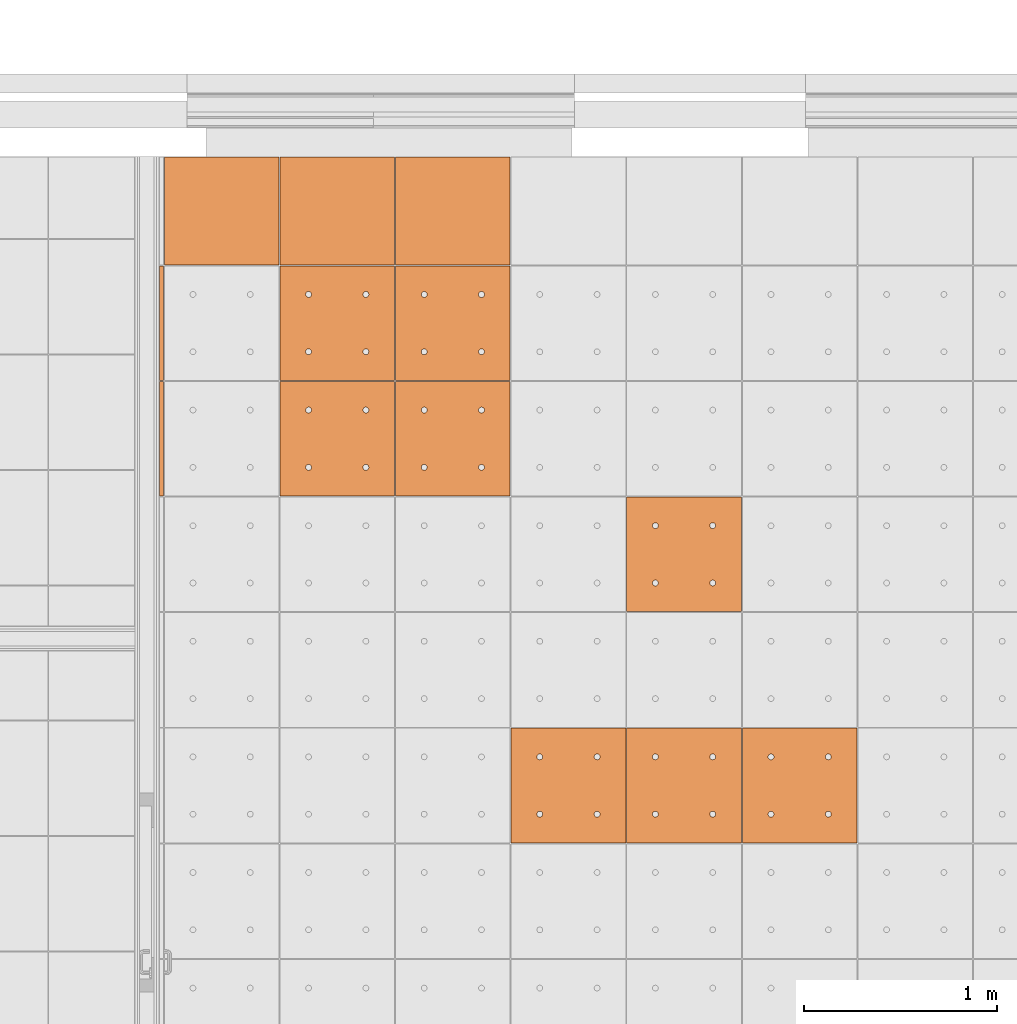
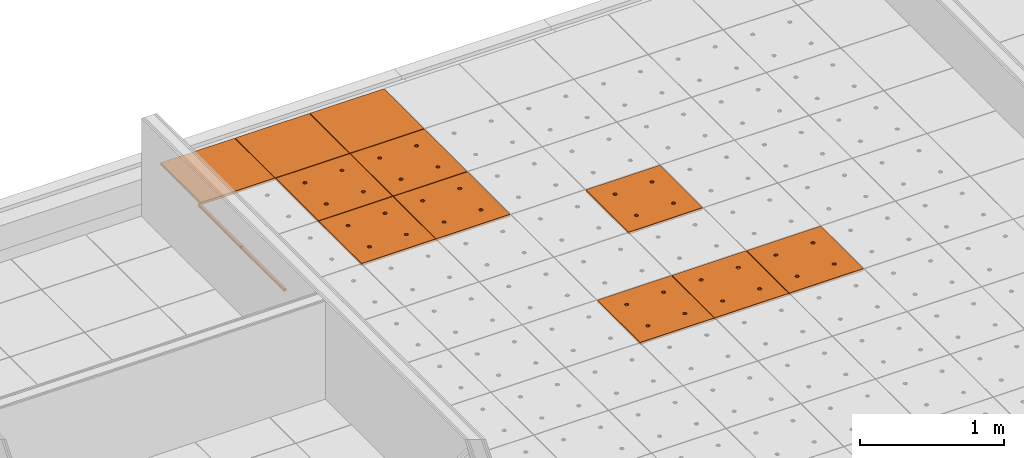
# One storey, part 301 of 338: 13 proxies, 1 element without a shape of its own.
"""IFC2X3 building model written with IfcOpenShell, lengths in millimetres."""

from ifc_helpers import new_model, entity, si_unit, converted_unit, derived_unit, money_unit, direction, frame, origin_with_axes, place, context, subcontext, project, spatial, faceted_brep, source, transform, mapped, material, type_object, type_shapes, element, aggregate, save


model = new_model("IFC2X3")

# Units and contexts
model_context = context("Model", 3, precision=0.01, world=origin_with_axes(), true_north=direction((0.0, 1.0)))
plan_context = context("Plan", 3, precision=0.01, world=origin_with_axes(), true_north=direction((0.0, 1.0)))
body_context = subcontext(model_context, "Body", "Model", "MODEL_VIEW")
ifc_project = project(units=[si_unit("LENGTHUNIT", "METRE", prefix="MILLI"), si_unit("AREAUNIT", "SQUARE_METRE"), si_unit("VOLUMEUNIT", "CUBIC_METRE"), converted_unit("PLANEANGLEUNIT", "DEGREE", entity("IfcPlaneAngleMeasure", 0.0174532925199), si_unit("PLANEANGLEUNIT", "RADIAN"), dimensions=[0, 0, 0, 0, 0, 0, 0]), money_unit("EUR"), converted_unit("TIMEUNIT", "Year", entity("IfcTimeMeasure", 31556926.0), si_unit("TIMEUNIT", "SECOND"), dimensions=[0, 0, 1, 0, 0, 0, 0]), si_unit("MASSUNIT", "GRAM", prefix="KILO"), si_unit("THERMODYNAMICTEMPERATUREUNIT", "DEGREE_CELSIUS"), si_unit("LUMINOUSINTENSITYUNIT", "LUMEN"), si_unit("ENERGYUNIT", "JOULE", prefix="MEGA"), derived_unit("THERMALCONDUCTANCEUNIT", [(si_unit("POWERUNIT", "WATT"), 1), (si_unit("LENGTHUNIT", "METRE"), -1), (si_unit("THERMODYNAMICTEMPERATUREUNIT", "KELVIN"), -1)]), derived_unit("SPECIFICHEATCAPACITYUNIT", [(si_unit("ENERGYUNIT", "JOULE"), 1), (si_unit("MASSUNIT", "GRAM", prefix="KILO"), -1), (si_unit("THERMODYNAMICTEMPERATUREUNIT", "KELVIN"), -1)]), derived_unit("MASSDENSITYUNIT", [(si_unit("MASSUNIT", "GRAM", prefix="KILO"), 1), (si_unit("VOLUMEUNIT", "CUBIC_METRE"), -1)])], contexts=[model_context, plan_context])

# Site, building, storey
site_placement = place(None, origin_with_axes())
site = spatial("IfcSite", under=ifc_project, at=site_placement, Name="Fortuinstraat Woensdrecht", CompositionType="ELEMENT")
building_placement = place(site_placement, origin_with_axes())
building = spatial("IfcBuilding", under=site, at=building_placement, Name="IKC Fortuna", CompositionType="ELEMENT")
storey_placement = place(building_placement, origin_with_axes())
storey = spatial("IfcBuildingStorey", under=building, at=storey_placement, Name="00 begane grond", CompositionType="ELEMENT", Elevation=0.0)

# Covering, proxies
covering_type = type_object("IfcCoveringType", Name="Curtain Wall Type", PredefinedType="CEILING")
covering_placement = place(storey_placement, frame((24394.3550152, 31482.3495284, 3210.0), z_axis=(0.0, 0.0, 1.0), x_axis=(1.0, 0.0, 0.0)))
covering = element("IfcCovering", 1, at=covering_placement, inside=storey, type_object=covering_type, Name="45_Plafondafwerking_P01", PredefinedType="CEILING")
ifc_material = material(Name="Gipsplaat")
building_element_proxy_type_1 = type_object("IfcBuildingElementProxyType", Name="Main Panel 600 x 600 x 20", PredefinedType="NOTDEFINED")
shared_shape_1 = source(origin_with_axes(), body_context, "Body", "Brep", [
    faceted_brep([(2.49999999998, 2.49999999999, -10.0), (300.0, 2.49999999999, -10.0), (300.0, 2.49999999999, 10.0), (2.49999999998, 2.49999999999, 10.0), (2.49999999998, 300.0, -10.0), (2.49999999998, 597.5, -10.0), (300.0, 597.5, -10.0), (597.5, 597.5, -10.0), (597.5, 300.0, -10.0), (597.5, 2.49999999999, -10.0), (166.25, 450.06232995, -10.0), (165.79423259, 452.64711538, -10.0), (164.896546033, 455.11348892, -10.0), (163.58421608, 457.38651108, -10.0), (161.897117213, 459.39711721, -10.0), (159.886511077, 461.08421608, -10.0), (157.613488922, 462.39654603, -10.0), (155.147115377, 463.29423259, -10.0), (152.562329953, 463.75, -10.0), (149.937670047, 463.75, -10.0), (147.352884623, 463.29423259, -10.0), (144.886511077, 462.39654603, -10.0), (142.613488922, 461.08421608, -10.0), (140.602882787, 459.39711721, -10.0), (138.91578392, 457.38651108, -10.0), (137.603453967, 455.11348892, -10.0), (136.705767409, 452.64711538, -10.0), (136.25, 450.06232995, -10.0), (136.25, 448.75, -10.0), (136.25, 447.43767005, -10.0), (136.705767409, 444.85288462, -10.0), (137.603453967, 442.38651108, -10.0), (138.91578392, 440.11348892, -10.0), (140.602882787, 438.10288279, -10.0), (142.613488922, 436.41578392, -10.0), (144.886511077, 435.10345397, -10.0), (147.352884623, 434.20576741, -10.0), (149.937670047, 433.75, -10.0), (152.562329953, 433.75, -10.0), (155.147115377, 434.20576741, -10.0), (157.613488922, 435.10345397, -10.0), (159.886511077, 436.41578392, -10.0), (161.897117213, 438.10288279, -10.0), (163.58421608, 440.11348892, -10.0), (164.896546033, 442.38651108, -10.0), (165.79423259, 444.85288462, -10.0), (166.25, 447.43767005, -10.0), (463.75, 450.06232995, -10.0), (463.29423259, 452.64711538, -10.0), (462.396546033, 455.11348892, -10.0), (461.08421608, 457.38651108, -10.0), (459.397117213, 459.39711721, -10.0), (457.386511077, 461.08421608, -10.0), (455.113488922, 462.39654603, -10.0), (452.647115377, 463.29423259, -10.0), (450.062329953, 463.75, -10.0), (447.437670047, 463.75, -10.0), (444.852884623, 463.29423259, -10.0), (442.386511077, 462.39654603, -10.0), (440.113488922, 461.08421608, -10.0), (438.102882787, 459.39711721, -10.0), (436.41578392, 457.38651108, -10.0), (435.103453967, 455.11348892, -10.0), (434.205767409, 452.64711538, -10.0), (433.75, 450.06232995, -10.0), (433.75, 448.75, -10.0), (433.75, 447.43767005, -10.0), (434.205767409, 444.85288462, -10.0), (435.103453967, 442.38651108, -10.0), (436.41578392, 440.11348892, -10.0), (438.102882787, 438.10288279, -10.0), (440.113488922, 436.41578392, -10.0), (442.386511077, 435.10345397, -10.0), (444.852884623, 434.20576741, -10.0), (447.437670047, 433.75, -10.0), (450.062329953, 433.75, -10.0), (452.647115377, 434.20576741, -10.0), (455.113488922, 435.10345397, -10.0), (457.386511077, 436.41578392, -10.0), (459.397117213, 438.10288279, -10.0), (461.08421608, 440.11348892, -10.0), (462.396546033, 442.38651108, -10.0), (463.29423259, 444.85288462, -10.0), (463.75, 447.43767005, -10.0), (463.75, 152.56232995, -10.0), (463.29423259, 155.14711538, -10.0), (462.396546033, 157.61348892, -10.0), (461.08421608, 159.88651108, -10.0), (459.397117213, 161.89711721, -10.0), (457.386511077, 163.58421608, -10.0), (455.113488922, 164.89654603, -10.0), (452.647115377, 165.79423259, -10.0), (450.062329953, 166.25, -10.0), (447.437670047, 166.25, -10.0), (444.852884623, 165.79423259, -10.0), (442.386511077, 164.89654603, -10.0), (440.113488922, 163.58421608, -10.0), (438.102882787, 161.89711721, -10.0), (436.41578392, 159.88651108, -10.0), (435.103453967, 157.61348892, -10.0), (434.205767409, 155.14711538, -10.0), (433.75, 152.56232995, -10.0), (433.75, 151.25, -10.0), (433.75, 149.93767005, -10.0), (434.205767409, 147.35288462, -10.0), (435.103453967, 144.88651108, -10.0), (436.41578392, 142.61348892, -10.0), (438.102882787, 140.60288279, -10.0), (440.113488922, 138.91578392, -10.0), (442.386511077, 137.60345397, -10.0), (444.852884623, 136.70576741, -10.0), (447.437670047, 136.25, -10.0), (450.062329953, 136.25, -10.0), (452.647115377, 136.70576741, -10.0), (455.113488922, 137.60345397, -10.0), (457.386511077, 138.91578392, -10.0), (459.397117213, 140.60288279, -10.0), (461.08421608, 142.61348892, -10.0), (462.396546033, 144.88651108, -10.0), (463.29423259, 147.35288462, -10.0), (463.75, 149.93767005, -10.0), (166.25, 152.56232995, -10.0), (165.79423259, 155.14711538, -10.0), (164.896546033, 157.61348892, -10.0), (163.58421608, 159.88651108, -10.0), (161.897117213, 161.89711721, -10.0), (159.886511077, 163.58421608, -10.0), (157.613488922, 164.89654603, -10.0), (155.147115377, 165.79423259, -10.0), (152.562329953, 166.25, -10.0), (149.937670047, 166.25, -10.0), (147.352884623, 165.79423259, -10.0), (144.886511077, 164.89654603, -10.0), (142.613488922, 163.58421608, -10.0), (140.602882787, 161.89711721, -10.0), (138.91578392, 159.88651108, -10.0), (137.603453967, 157.61348892, -10.0), (136.705767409, 155.14711538, -10.0), (136.25, 152.56232995, -10.0), (136.25, 151.25, -10.0), (136.25, 149.93767005, -10.0), (136.705767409, 147.35288462, -10.0), (137.603453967, 144.88651108, -10.0), (138.91578392, 142.61348892, -10.0), (140.602882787, 140.60288279, -10.0), (142.613488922, 138.91578392, -10.0), (144.886511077, 137.60345397, -10.0), (147.352884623, 136.70576741, -10.0), (149.937670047, 136.25, -10.0), (152.562329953, 136.25, -10.0), (155.147115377, 136.70576741, -10.0), (157.613488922, 137.60345397, -10.0), (159.886511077, 138.91578392, -10.0), (161.897117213, 140.60288279, -10.0), (163.58421608, 142.61348892, -10.0), (164.896546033, 144.88651108, -10.0), (165.79423259, 147.35288462, -10.0), (166.25, 149.93767005, -10.0), (597.5, 2.49999999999, 10.0), (597.5, 300.0, 10.0), (597.5, 597.5, 10.0), (300.0, 597.5, 10.0), (2.49999999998, 597.5, 10.0), (2.49999999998, 300.0, 10.0), (166.25, 450.06232995, 10.0), (166.25, 447.43767005, 10.0), (165.79423259, 444.85288462, 10.0), (164.896546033, 442.38651108, 10.0), (163.58421608, 440.11348892, 10.0), (161.897117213, 438.10288279, 10.0), (159.886511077, 436.41578392, 10.0), (157.613488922, 435.10345397, 10.0), (155.147115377, 434.20576741, 10.0), (152.562329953, 433.75, 10.0), (149.937670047, 433.75, 10.0), (147.352884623, 434.20576741, 10.0), (144.886511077, 435.10345397, 10.0), (142.613488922, 436.41578392, 10.0), (140.602882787, 438.10288279, 10.0), (138.91578392, 440.11348892, 10.0), (137.603453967, 442.38651108, 10.0), (136.705767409, 444.85288462, 10.0), (136.25, 447.43767005, 10.0), (136.25, 448.75, 10.0), (136.25, 450.06232995, 10.0), (136.705767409, 452.64711538, 10.0), (137.603453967, 455.11348892, 10.0), (138.91578392, 457.38651108, 10.0), (140.602882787, 459.39711721, 10.0), (142.613488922, 461.08421608, 10.0), (144.886511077, 462.39654603, 10.0), (147.352884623, 463.29423259, 10.0), (149.937670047, 463.75, 10.0), (152.562329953, 463.75, 10.0), (155.147115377, 463.29423259, 10.0), (157.613488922, 462.39654603, 10.0), (159.886511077, 461.08421608, 10.0), (161.897117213, 459.39711721, 10.0), (163.58421608, 457.38651108, 10.0), (164.896546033, 455.11348892, 10.0), (165.79423259, 452.64711538, 10.0), (463.75, 450.06232995, 10.0), (463.75, 447.43767005, 10.0), (463.29423259, 444.85288462, 10.0), (462.396546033, 442.38651108, 10.0), (461.08421608, 440.11348892, 10.0), (459.397117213, 438.10288279, 10.0), (457.386511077, 436.41578392, 10.0), (455.113488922, 435.10345397, 10.0), (452.647115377, 434.20576741, 10.0), (450.062329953, 433.75, 10.0), (447.437670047, 433.75, 10.0), (444.852884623, 434.20576741, 10.0), (442.386511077, 435.10345397, 10.0), (440.113488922, 436.41578392, 10.0), (438.102882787, 438.10288279, 10.0), (436.41578392, 440.11348892, 10.0), (435.103453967, 442.38651108, 10.0), (434.205767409, 444.85288462, 10.0), (433.75, 447.43767005, 10.0), (433.75, 448.75, 10.0), (433.75, 450.06232995, 10.0), (434.205767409, 452.64711538, 10.0), (435.103453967, 455.11348892, 10.0), (436.41578392, 457.38651108, 10.0), (438.102882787, 459.39711721, 10.0), (440.113488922, 461.08421608, 10.0), (442.386511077, 462.39654603, 10.0), (444.852884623, 463.29423259, 10.0), (447.437670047, 463.75, 10.0), (450.062329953, 463.75, 10.0), (452.647115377, 463.29423259, 10.0), (455.113488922, 462.39654603, 10.0), (457.386511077, 461.08421608, 10.0), (459.397117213, 459.39711721, 10.0), (461.08421608, 457.38651108, 10.0), (462.396546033, 455.11348892, 10.0), (463.29423259, 452.64711538, 10.0), (463.75, 152.56232995, 10.0), (463.75, 149.93767005, 10.0), (463.29423259, 147.35288462, 10.0), (462.396546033, 144.88651108, 10.0), (461.08421608, 142.61348892, 10.0), (459.397117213, 140.60288279, 10.0), (457.386511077, 138.91578392, 10.0), (455.113488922, 137.60345397, 10.0), (452.647115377, 136.70576741, 10.0), (450.062329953, 136.25, 10.0), (447.437670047, 136.25, 10.0), (444.852884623, 136.70576741, 10.0), (442.386511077, 137.60345397, 10.0), (440.113488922, 138.91578392, 10.0), (438.102882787, 140.60288279, 10.0), (436.41578392, 142.61348892, 10.0), (435.103453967, 144.88651108, 10.0), (434.205767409, 147.35288462, 10.0), (433.75, 149.93767005, 10.0), (433.75, 151.25, 10.0), (433.75, 152.56232995, 10.0), (434.205767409, 155.14711538, 10.0), (435.103453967, 157.61348892, 10.0), (436.41578392, 159.88651108, 10.0), (438.102882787, 161.89711721, 10.0), (440.113488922, 163.58421608, 10.0), (442.386511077, 164.89654603, 10.0), (444.852884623, 165.79423259, 10.0), (447.437670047, 166.25, 10.0), (450.062329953, 166.25, 10.0), (452.647115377, 165.79423259, 10.0), (455.113488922, 164.89654603, 10.0), (457.386511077, 163.58421608, 10.0), (459.397117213, 161.89711721, 10.0), (461.08421608, 159.88651108, 10.0), (462.396546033, 157.61348892, 10.0), (463.29423259, 155.14711538, 10.0), (166.25, 152.56232995, 10.0), (166.25, 149.93767005, 10.0), (165.79423259, 147.35288462, 10.0), (164.896546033, 144.88651108, 10.0), (163.58421608, 142.61348892, 10.0), (161.897117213, 140.60288279, 10.0), (159.886511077, 138.91578392, 10.0), (157.613488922, 137.60345397, 10.0), (155.147115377, 136.70576741, 10.0), (152.562329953, 136.25, 10.0), (149.937670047, 136.25, 10.0), (147.352884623, 136.70576741, 10.0), (144.886511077, 137.60345397, 10.0), (142.613488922, 138.91578392, 10.0), (140.602882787, 140.60288279, 10.0), (138.91578392, 142.61348892, 10.0), (137.603453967, 144.88651108, 10.0), (136.705767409, 147.35288462, 10.0), (136.25, 149.93767005, 10.0), (136.25, 151.25, 10.0), (136.25, 152.56232995, 10.0), (136.705767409, 155.14711538, 10.0), (137.603453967, 157.61348892, 10.0), (138.91578392, 159.88651108, 10.0), (140.602882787, 161.89711721, 10.0), (142.613488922, 163.58421608, 10.0), (144.886511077, 164.89654603, 10.0), (147.352884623, 165.79423259, 10.0), (149.937670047, 166.25, 10.0), (152.562329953, 166.25, 10.0), (155.147115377, 165.79423259, 10.0), (157.613488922, 164.89654603, 10.0), (159.886511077, 163.58421608, 10.0), (161.897117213, 161.89711721, 10.0), (163.58421608, 159.88651108, 10.0), (164.896546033, 157.61348892, 10.0), (165.79423259, 155.14711538, 10.0)], [[[0, 1, 2, 3]], [[0, 4, 5, 6, 7, 8, 9, 1], [10, 11, 12, 13, 14, 15, 16, 17, 18, 19, 20, 21, 22, 23, 24, 25, 26, 27, 28, 29, 30, 31, 32, 33, 34, 35, 36, 37, 38, 39, 40, 41, 42, 43, 44, 45, 46], [47, 48, 49, 50, 51, 52, 53, 54, 55, 56, 57, 58, 59, 60, 61, 62, 63, 64, 65, 66, 67, 68, 69, 70, 71, 72, 73, 74, 75, 76, 77, 78, 79, 80, 81, 82, 83], [84, 85, 86, 87, 88, 89, 90, 91, 92, 93, 94, 95, 96, 97, 98, 99, 100, 101, 102, 103, 104, 105, 106, 107, 108, 109, 110, 111, 112, 113, 114, 115, 116, 117, 118, 119, 120], [121, 122, 123, 124, 125, 126, 127, 128, 129, 130, 131, 132, 133, 134, 135, 136, 137, 138, 139, 140, 141, 142, 143, 144, 145, 146, 147, 148, 149, 150, 151, 152, 153, 154, 155, 156, 157]], [[1, 9, 158, 2]], [[3, 2, 158, 159, 160, 161, 162, 163], [164, 165, 166, 167, 168, 169, 170, 171, 172, 173, 174, 175, 176, 177, 178, 179, 180, 181, 182, 183, 184, 185, 186, 187, 188, 189, 190, 191, 192, 193, 194, 195, 196, 197, 198, 199, 200], [201, 202, 203, 204, 205, 206, 207, 208, 209, 210, 211, 212, 213, 214, 215, 216, 217, 218, 219, 220, 221, 222, 223, 224, 225, 226, 227, 228, 229, 230, 231, 232, 233, 234, 235, 236, 237], [238, 239, 240, 241, 242, 243, 244, 245, 246, 247, 248, 249, 250, 251, 252, 253, 254, 255, 256, 257, 258, 259, 260, 261, 262, 263, 264, 265, 266, 267, 268, 269, 270, 271, 272, 273, 274], [275, 276, 277, 278, 279, 280, 281, 282, 283, 284, 285, 286, 287, 288, 289, 290, 291, 292, 293, 294, 295, 296, 297, 298, 299, 300, 301, 302, 303, 304, 305, 306, 307, 308, 309, 310, 311]], [[4, 0, 3, 163]], [[5, 4, 163, 162]], [[6, 5, 162, 161]], [[7, 6, 161, 160]], [[8, 7, 160, 159]], [[9, 8, 159, 158]], [[11, 10, 164, 200]], [[12, 11, 200, 199]], [[13, 12, 199, 198]], [[14, 13, 198, 197]], [[15, 14, 197, 196]], [[16, 15, 196, 195]], [[17, 16, 195, 194]], [[18, 17, 194, 193]], [[19, 18, 193, 192]], [[20, 19, 192, 191]], [[21, 20, 191, 190]], [[22, 21, 190, 189]], [[23, 22, 189, 188]], [[24, 23, 188, 187]], [[25, 24, 187, 186]], [[26, 25, 186, 185]], [[27, 26, 185, 184]], [[28, 27, 184, 183]], [[29, 28, 183, 182]], [[30, 29, 182, 181]], [[31, 30, 181, 180]], [[32, 31, 180, 179]], [[33, 32, 179, 178]], [[34, 33, 178, 177]], [[35, 34, 177, 176]], [[36, 35, 176, 175]], [[37, 36, 175, 174]], [[38, 37, 174, 173]], [[39, 38, 173, 172]], [[40, 39, 172, 171]], [[41, 40, 171, 170]], [[42, 41, 170, 169]], [[43, 42, 169, 168]], [[44, 43, 168, 167]], [[45, 44, 167, 166]], [[46, 45, 166, 165]], [[10, 46, 165, 164]], [[48, 47, 201, 237]], [[49, 48, 237, 236]], [[50, 49, 236, 235]], [[51, 50, 235, 234]], [[52, 51, 234, 233]], [[53, 52, 233, 232]], [[54, 53, 232, 231]], [[55, 54, 231, 230]], [[56, 55, 230, 229]], [[57, 56, 229, 228]], [[58, 57, 228, 227]], [[59, 58, 227, 226]], [[60, 59, 226, 225]], [[61, 60, 225, 224]], [[62, 61, 224, 223]], [[63, 62, 223, 222]], [[64, 63, 222, 221]], [[65, 64, 221, 220]], [[66, 65, 220, 219]], [[67, 66, 219, 218]], [[68, 67, 218, 217]], [[69, 68, 217, 216]], [[70, 69, 216, 215]], [[71, 70, 215, 214]], [[72, 71, 214, 213]], [[73, 72, 213, 212]], [[74, 73, 212, 211]], [[75, 74, 211, 210]], [[76, 75, 210, 209]], [[77, 76, 209, 208]], [[78, 77, 208, 207]], [[79, 78, 207, 206]], [[80, 79, 206, 205]], [[81, 80, 205, 204]], [[82, 81, 204, 203]], [[83, 82, 203, 202]], [[47, 83, 202, 201]], [[85, 84, 238, 274]], [[86, 85, 274, 273]], [[87, 86, 273, 272]], [[88, 87, 272, 271]], [[89, 88, 271, 270]], [[90, 89, 270, 269]], [[91, 90, 269, 268]], [[92, 91, 268, 267]], [[93, 92, 267, 266]], [[94, 93, 266, 265]], [[95, 94, 265, 264]], [[96, 95, 264, 263]], [[97, 96, 263, 262]], [[98, 97, 262, 261]], [[99, 98, 261, 260]], [[100, 99, 260, 259]], [[101, 100, 259, 258]], [[102, 101, 258, 257]], [[103, 102, 257, 256]], [[104, 103, 256, 255]], [[105, 104, 255, 254]], [[106, 105, 254, 253]], [[107, 106, 253, 252]], [[108, 107, 252, 251]], [[109, 108, 251, 250]], [[110, 109, 250, 249]], [[111, 110, 249, 248]], [[112, 111, 248, 247]], [[113, 112, 247, 246]], [[114, 113, 246, 245]], [[115, 114, 245, 244]], [[116, 115, 244, 243]], [[117, 116, 243, 242]], [[118, 117, 242, 241]], [[119, 118, 241, 240]], [[120, 119, 240, 239]], [[84, 120, 239, 238]], [[122, 121, 275, 311]], [[123, 122, 311, 310]], [[124, 123, 310, 309]], [[125, 124, 309, 308]], [[126, 125, 308, 307]], [[127, 126, 307, 306]], [[128, 127, 306, 305]], [[129, 128, 305, 304]], [[130, 129, 304, 303]], [[131, 130, 303, 302]], [[132, 131, 302, 301]], [[133, 132, 301, 300]], [[134, 133, 300, 299]], [[135, 134, 299, 298]], [[136, 135, 298, 297]], [[137, 136, 297, 296]], [[138, 137, 296, 295]], [[139, 138, 295, 294]], [[140, 139, 294, 293]], [[141, 140, 293, 292]], [[142, 141, 292, 291]], [[143, 142, 291, 290]], [[144, 143, 290, 289]], [[145, 144, 289, 288]], [[146, 145, 288, 287]], [[147, 146, 287, 286]], [[148, 147, 286, 285]], [[149, 148, 285, 284]], [[150, 149, 284, 283]], [[151, 150, 283, 282]], [[152, 151, 282, 281]], [[153, 152, 281, 280]], [[154, 153, 280, 279]], [[155, 154, 279, 278]], [[156, 155, 278, 277]], [[157, 156, 277, 276]], [[121, 157, 276, 275]]]),
])
type_shapes(building_element_proxy_type_1, [shared_shape_1])
proxy_1_placement = place(covering_placement, frame((1800.0, 1800.0, 0.0), z_axis=(0.0, 0.0, 1.0), x_axis=(1.0, 0.0, 0.0)))
proxy_1 = element("IfcBuildingElementProxy", 2, at=proxy_1_placement, type_object=building_element_proxy_type_1, material=ifc_material, Name="__600x601 Rockfon Krios", context=body_context, shape_type="MappedRepresentation", body=[
    mapped(shared_shape_1, transform((300.0, 300.0, 0.0), x_axis=(-1.0, 0.0, 0.0), y_axis=(0.0, -1.0, 0.0), z_axis=(0.0, 0.0, 1.0))),
])
proxy_2_placement = place(covering_placement, frame((0.0, 3000.0, 1.46105350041e-10), z_axis=(0.0, 0.0, 1.0), x_axis=(1.0, 0.0, 0.0)))
proxy_2 = element("IfcBuildingElementProxy", 3, at=proxy_2_placement, type_object=building_element_proxy_type_1, material=ifc_material, Name="__600x631 Rockfon Krios", context=body_context, shape_type="MappedRepresentation", body=[
    mapped(shared_shape_1, transform((300.0, 300.0, 0.0), x_axis=(-1.0, 0.0, 0.0), y_axis=(0.0, -1.0, 0.0), z_axis=(0.0, 0.0, 1.0))),
])
proxy_3_placement = place(covering_placement, frame((0.0, 2400.0, 1.46105350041e-10), z_axis=(0.0, 0.0, 1.0), x_axis=(1.0, 0.0, 0.0)))
proxy_3 = element("IfcBuildingElementProxy", 4, at=proxy_3_placement, type_object=building_element_proxy_type_1, material=ifc_material, Name="__600x633 Rockfon Krios", context=body_context, shape_type="MappedRepresentation", body=[
    mapped(shared_shape_1, transform((300.0, 300.0, 0.0), x_axis=(-1.0, 0.0, 0.0), y_axis=(0.0, -1.0, 0.0), z_axis=(0.0, 0.0, 1.0))),
])
proxy_4_placement = place(covering_placement, frame((600.0, 2400.0, 1.26121335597e-10), z_axis=(0.0, 0.0, 1.0), x_axis=(1.0, 0.0, 0.0)))
proxy_4 = element("IfcBuildingElementProxy", 5, at=proxy_4_placement, type_object=building_element_proxy_type_1, material=ifc_material, Name="__600x638 Rockfon Krios", context=body_context, shape_type="MappedRepresentation", body=[
    mapped(shared_shape_1, transform((300.0, 300.0, 0.0), x_axis=(-1.0, 0.0, 0.0), y_axis=(0.0, -1.0, 0.0), z_axis=(0.0, 0.0, 1.0))),
])
proxy_5_placement = place(covering_placement, frame((600.0, 3000.0, 1.26121335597e-10), z_axis=(0.0, 0.0, 1.0), x_axis=(1.0, 0.0, 0.0)))
proxy_5 = element("IfcBuildingElementProxy", 6, at=proxy_5_placement, type_object=building_element_proxy_type_1, material=ifc_material, Name="__600x639 Rockfon Krios", context=body_context, shape_type="MappedRepresentation", body=[
    mapped(shared_shape_1, transform((300.0, 300.0, 0.0), x_axis=(-1.0, 0.0, 0.0), y_axis=(0.0, -1.0, 0.0), z_axis=(0.0, 0.0, 1.0))),
])
proxy_6_placement = place(covering_placement, frame((1200.0, 600.0, 1.06581410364e-10), z_axis=(0.0, 0.0, 1.0), x_axis=(1.0, 0.0, 0.0)))
proxy_6 = element("IfcBuildingElementProxy", 7, at=proxy_6_placement, type_object=building_element_proxy_type_1, material=ifc_material, Name="__600x660 Rockfon Krios", context=body_context, shape_type="MappedRepresentation", body=[
    mapped(shared_shape_1, transform((300.0, 300.0, 0.0), x_axis=(-1.0, 0.0, 0.0), y_axis=(0.0, -1.0, 0.0), z_axis=(0.0, 0.0, 1.0))),
])
proxy_7_placement = place(covering_placement, frame((2400.0, 600.0, 0.0), z_axis=(0.0, 0.0, 1.0), x_axis=(1.0, 0.0, 0.0)))
proxy_7 = element("IfcBuildingElementProxy", 8, at=proxy_7_placement, type_object=building_element_proxy_type_1, material=ifc_material, Name="__600x692 Rockfon Krios", context=body_context, shape_type="MappedRepresentation", body=[
    mapped(shared_shape_1, transform((300.0, 300.0, 0.0), x_axis=(-1.0, 0.0, 0.0), y_axis=(0.0, -1.0, 0.0), z_axis=(0.0, 0.0, 1.0))),
])
proxy_8_placement = place(covering_placement, frame((1800.0, 600.0, 0.0), z_axis=(0.0, 0.0, 1.0), x_axis=(1.0, 0.0, 0.0)))
proxy_8 = element("IfcBuildingElementProxy", 9, at=proxy_8_placement, type_object=building_element_proxy_type_1, material=ifc_material, Name="__600x701 Rockfon Krios", context=body_context, shape_type="MappedRepresentation", body=[
    mapped(shared_shape_1, transform((300.0, 300.0, 0.0), x_axis=(-1.0, 0.0, 0.0), y_axis=(0.0, -1.0, 0.0), z_axis=(0.0, 0.0, 1.0))),
])
building_element_proxy_type_2 = type_object("IfcBuildingElementProxyType", Name="600 x 564 x 20", PredefinedType="NOTDEFINED")
shared_shape_2 = source(origin_with_axes(), body_context, "Body", "Brep", [
    faceted_brep([(2.5, 38.5528485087, -10.0), (597.5, 38.5528485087, -10.0), (597.5, 38.5528485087, 10.0), (2.5, 38.5528485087, 10.0), (2.50000000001, 597.5, -10.0), (597.5, 597.5, -10.0), (597.5, 597.5, 10.0), (2.50000000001, 597.5, 10.0)], [[[0, 1, 2, 3]], [[0, 4, 5, 1]], [[1, 5, 6, 2]], [[3, 2, 6, 7]], [[4, 0, 3, 7]], [[5, 4, 7, 6]]]),
])
type_shapes(building_element_proxy_type_2, [shared_shape_2])
proxy_9_placement = place(covering_placement, frame((600.0, 3581.97357793, 1.26121335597e-10), z_axis=(0.0, 0.0, 1.0), x_axis=(1.0, 0.0, 0.0)))
proxy_9 = element("IfcBuildingElementProxy", 10, at=proxy_9_placement, type_object=building_element_proxy_type_2, material=ifc_material, Name="__600x647 Rockfon Krios", context=body_context, shape_type="MappedRepresentation", body=[
    mapped(shared_shape_2, transform((300.0, 318.026422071, 0.0), x_axis=(-1.0, 0.0, 0.0), y_axis=(0.0, -1.0, 0.0), z_axis=(0.0, 0.0, 1.0))),
])
proxy_10_placement = place(covering_placement, frame((0.0, 3581.97357793, 1.46105350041e-10), z_axis=(0.0, 0.0, 1.0), x_axis=(1.0, 0.0, 0.0)))
proxy_10 = element("IfcBuildingElementProxy", 11, at=proxy_10_placement, type_object=building_element_proxy_type_2, material=ifc_material, Name="__600x707 Rockfon Krios", context=body_context, shape_type="MappedRepresentation", body=[
    mapped(shared_shape_2, transform((300.0, 318.026422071, 0.0), x_axis=(-1.0, 0.0, 0.0), y_axis=(0.0, -1.0, 0.0), z_axis=(0.0, 0.0, 1.0))),
])
proxy_11_placement = place(covering_placement, frame((-600.0, 3581.97357793, 1.65645275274e-10), z_axis=(0.0, 0.0, 1.0), x_axis=(1.0, 0.0, 0.0)))
proxy_11 = element("IfcBuildingElementProxy", 12, at=proxy_11_placement, type_object=building_element_proxy_type_2, material=ifc_material, Name="__600x716 Rockfon Krios", context=body_context, shape_type="MappedRepresentation", body=[
    mapped(shared_shape_2, transform((300.0, 318.026422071, 0.0), x_axis=(-1.0, 0.0, 0.0), y_axis=(0.0, -1.0, 0.0), z_axis=(0.0, 0.0, 1.0))),
])
building_element_proxy_type_3 = type_object("IfcBuildingElementProxyType", Name="25 x 600 x 20", PredefinedType="NOTDEFINED")
shared_shape_3 = source(origin_with_axes(), body_context, "Body", "Brep", [
    faceted_brep([(2.49999895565, 2.5, -10.0), (22.5000615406, 2.5, -10.0), (22.5000615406, 2.5, 10.0), (2.49999895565, 2.5, 10.0), (2.49999895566, 597.5, -10.0), (22.5000615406, 597.5, -10.0), (22.5000615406, 597.5, 10.0), (2.49999895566, 597.5, 10.0)], [[[0, 1, 2, 3]], [[0, 4, 5, 1]], [[1, 5, 6, 2]], [[3, 2, 6, 7]], [[4, 0, 3, 7]], [[5, 4, 7, 6]]]),
])
type_shapes(building_element_proxy_type_3, [shared_shape_3])
proxy_12_placement = place(covering_placement, frame((-912.50003077, 3000.0, 1.75859327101e-10), z_axis=(0.0, 0.0, 1.0), x_axis=(1.0, 0.0, 0.0)))
proxy_12 = element("IfcBuildingElementProxy", 13, at=proxy_12_placement, type_object=building_element_proxy_type_3, material=ifc_material, Name="__600x711 Rockfon Krios", context=body_context, shape_type="MappedRepresentation", body=[
    mapped(shared_shape_3, transform((12.5000307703, 300.0, 0.0), x_axis=(-1.0, 0.0, 0.0), y_axis=(0.0, -1.0, 0.0), z_axis=(0.0, 0.0, 1.0))),
])
proxy_13_placement = place(covering_placement, frame((-912.50003077, 2400.0, 1.75859327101e-10), z_axis=(0.0, 0.0, 1.0), x_axis=(1.0, 0.0, 0.0)))
proxy_13 = element("IfcBuildingElementProxy", 14, at=proxy_13_placement, type_object=building_element_proxy_type_3, material=ifc_material, Name="__600x712 Rockfon Krios", context=body_context, shape_type="MappedRepresentation", body=[
    mapped(shared_shape_3, transform((12.5000307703, 300.0, 0.0), x_axis=(-1.0, 0.0, 0.0), y_axis=(0.0, -1.0, 0.0), z_axis=(0.0, 0.0, 1.0))),
])
aggregate(covering, [proxy_1, proxy_2, proxy_3, proxy_4, proxy_5, proxy_9, proxy_6, proxy_7, proxy_8, proxy_10, proxy_12, proxy_13, proxy_11])

save(model, "model.ifc")
